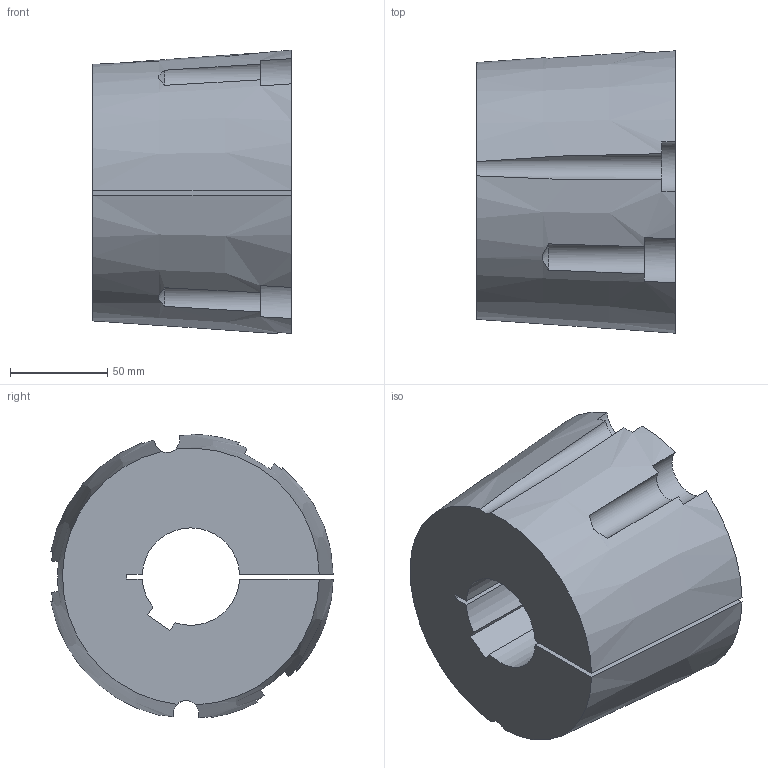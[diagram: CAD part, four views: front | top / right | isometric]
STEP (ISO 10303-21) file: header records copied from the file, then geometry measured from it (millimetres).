
FILE_DESCRIPTION( ( 'STEP AP203' ), '1' );
FILE_NAME( 'D:/export/antriebselemente/spannbuchsen_und_spannsaetze/taper-spannbuchsen_1008_bis_5050/taper-spannbuchsen_62251450Isometric_238.stp', '2018-12-11T11:11:32', ( '' ), ( '' ), ' ', 'PARTsolutions', ' ' );
FILE_SCHEMA( ( 'CONFIG_CONTROL_DESIGN' ) );
Length unit declared in the file: millimetre
Products named in the file (1): _taper-spannbuchsen_62251450
Bounding box: 102 x 144.84 x 145.4 mm (x, y, z)
Volume: 1283755.8 mm3; surface area: 100390.2 mm2
Topology: 1 solids, 1 shells, 34 faces, 96 edges, 64 vertices
Faces by surface type: plane 15, cylinder 13, cone 6
Entity records: 1310 total; most frequent: CARTESIAN_POINT 386, ORIENTED_EDGE 192, DIRECTION 186, EDGE_CURVE 96, AXIS2_PLACEMENT_3D 80, VERTEX_POINT 64, CIRCLE 45, ADVANCED_FACE 34
